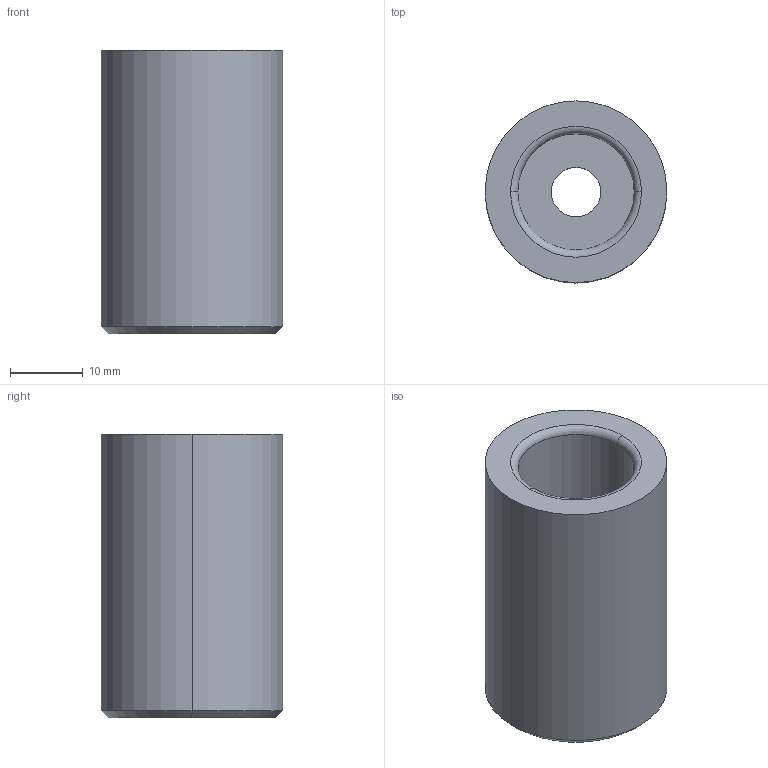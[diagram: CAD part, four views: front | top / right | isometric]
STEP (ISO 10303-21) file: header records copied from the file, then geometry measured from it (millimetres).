
FILE_DESCRIPTION (( 'STEP AP214' ), '1' );
FILE_NAME ('TPNFB25-25.step', '2024-04-30T19:36:12', ( '' ), ( '' ), 'SwSTEP 2.0', 'SolidWorks 2017', '' );
FILE_SCHEMA (( 'AUTOMOTIVE_DESIGN' ));
Length unit declared in the file: millimetre
Products named in the file (1): TPNFB25-25
Bounding box: 25 x 25 x 39 mm (x, y, z)
Volume: 13007.2 mm3; surface area: 5604.5 mm2
Topology: 1 solids, 1 shells, 19 faces, 38 edges, 22 vertices
Faces by surface type: cylinder 8, torus 6, plane 3, cone 2
Entity records: 560 total; most frequent: DIRECTION 106, CARTESIAN_POINT 80, ORIENTED_EDGE 76, AXIS2_PLACEMENT_3D 48, EDGE_CURVE 38, CIRCLE 28, VERTEX_POINT 22, EDGE_LOOP 22
